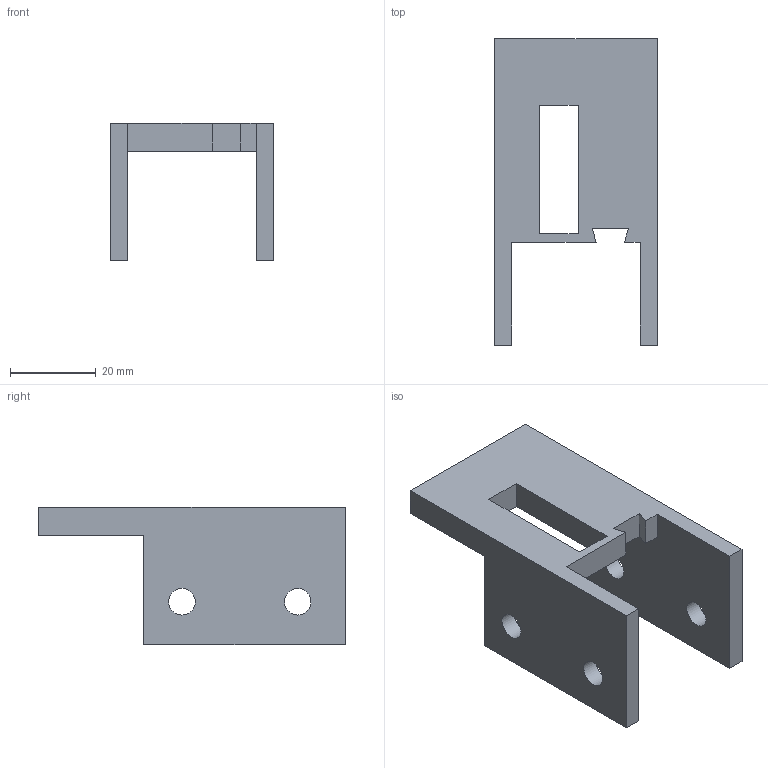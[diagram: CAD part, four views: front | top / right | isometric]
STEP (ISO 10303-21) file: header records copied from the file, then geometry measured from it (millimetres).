
FILE_DESCRIPTION(('Open CASCADE Model'),'2;1');
FILE_NAME('Open CASCADE Shape Model','2026-10-17T21:54:41',('Author'),( 'Open CASCADE'),'Open CASCADE STEP processor 7.9','Open CASCADE 7.9' ,'Unknown');
FILE_SCHEMA(('AUTOMOTIVE_DESIGN { 1 0 10303 214 1 1 1 1 }'));
Length unit declared in the file: millimetre
Products named in the file (1): Open CASCADE STEP translator 7.9 8
Bounding box: 38 x 71.5 x 32 mm (x, y, z)
Volume: 19765.3 mm3; surface area: 11404.4 mm2
Topology: 1 solids, 1 shells, 42 faces, 108 edges, 72 vertices
Faces by surface type: plane 34, cylinder 8
Full cylindrical faces by diameter (mm): 3.4 x4, 6.2 x4
Entity records: 2692 total; most frequent: CARTESIAN_POINT 583, DIRECTION 352, LINE 232, VECTOR 232, ORIENTED_EDGE 216, PCURVE 216, DEFINITIONAL_REPRESENTATION 216, EDGE_CURVE 108
